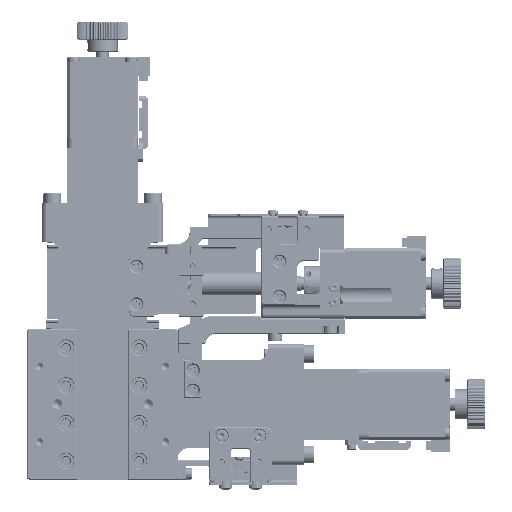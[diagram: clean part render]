
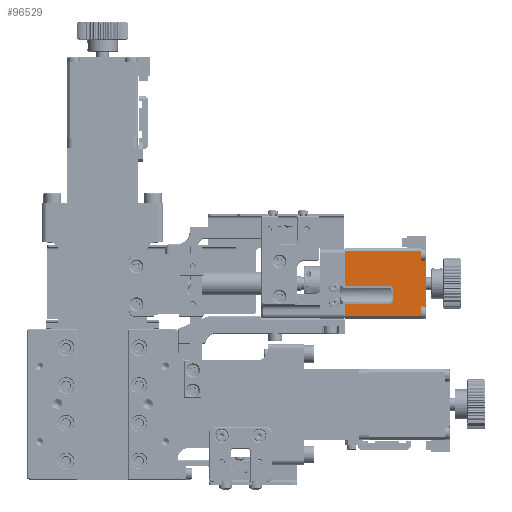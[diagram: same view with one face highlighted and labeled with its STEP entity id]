
A CAD part, front view. The second image highlights one B-rep face of the part: STEP entity #96529.
In plain terms, the highlighted planar face has unit normal (0, -1, 0).
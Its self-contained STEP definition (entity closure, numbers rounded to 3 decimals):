
#16959 = CARTESIAN_POINT ( 'NONE',  ( 96.5, 11., 61. ) ) ;
#17944 = VECTOR ( 'NONE', #149451, 1000. ) ;
#18818 = FACE_OUTER_BOUND ( 'NONE', #43171, .T. ) ;
#21094 = CARTESIAN_POINT ( 'NONE',  ( 126.5, 11., 35. ) ) ;
#23675 = EDGE_CURVE ( 'NONE', #269768, #54353, #55657, .T. ) ;
#24035 = ORIENTED_EDGE ( 'NONE', *, *, #265628, .F. ) ;
#24158 = DIRECTION ( 'NONE',  ( 0., 0., -1. ) ) ;
#24820 = LINE ( 'NONE', #112574, #157366 ) ;
#25373 = CARTESIAN_POINT ( 'NONE',  ( 126.5, 11., 57. ) ) ;
#26394 = ORIENTED_EDGE ( 'NONE', *, *, #99021, .T. ) ;
#27424 = ORIENTED_EDGE ( 'NONE', *, *, #185093, .F. ) ;
#39200 = LINE ( 'NONE', #85251, #236826 ) ;
#39313 = CARTESIAN_POINT ( 'NONE',  ( 126.5, 11., 61. ) ) ;
#43171 = EDGE_LOOP ( 'NONE', ( #72041, #118290, #24035, #26394, #61075, #177581, #101653, #212223, #61207, #27424, #140825, #167146 ) ) ;
#44906 = EDGE_CURVE ( 'NONE', #104739, #137043, #144664, .T. ) ;
#48374 = DIRECTION ( 'NONE',  ( 0., 0., -1. ) ) ;
#54353 = VERTEX_POINT ( 'NONE', #103067 ) ;
#54822 = VECTOR ( 'NONE', #252475, 1000. ) ;
#55657 = LINE ( 'NONE', #187730, #54822 ) ;
#60683 = DIRECTION ( 'NONE',  ( 0., 1., 0. ) ) ;
#61075 = ORIENTED_EDGE ( 'NONE', *, *, #44906, .F. ) ;
#61207 = ORIENTED_EDGE ( 'NONE', *, *, #157787, .T. ) ;
#62967 = CARTESIAN_POINT ( 'NONE',  ( 126.5, 11., 59.5 ) ) ;
#65760 = VERTEX_POINT ( 'NONE', #66517 ) ;
#66517 = CARTESIAN_POINT ( 'NONE',  ( 128.5, 11., 39.5 ) ) ;
#67565 = VERTEX_POINT ( 'NONE', #164628 ) ;
#67779 = EDGE_CURVE ( 'NONE', #221105, #65760, #132166, .T. ) ;
#67807 = CARTESIAN_POINT ( 'NONE',  ( 126.5, 11., 61. ) ) ;
#72041 = ORIENTED_EDGE ( 'NONE', *, *, #176747, .F. ) ;
#85251 = CARTESIAN_POINT ( 'NONE',  ( 96.5, 11., 39. ) ) ;
#96529 = ADVANCED_FACE ( 'NONE', ( #18818 ), #241556, .F. ) ;
#99021 = EDGE_CURVE ( 'NONE', #236541, #137043, #159042, .T. ) ;
#101653 = ORIENTED_EDGE ( 'NONE', *, *, #133389, .F. ) ;
#103067 = CARTESIAN_POINT ( 'NONE',  ( 96.5, 11., 35. ) ) ;
#104739 = VERTEX_POINT ( 'NONE', #62967 ) ;
#105008 = CARTESIAN_POINT ( 'NONE',  ( 126.5, 11., 36.5 ) ) ;
#106399 = CARTESIAN_POINT ( 'NONE',  ( 128.5, 11., 62. ) ) ;
#112574 = CARTESIAN_POINT ( 'NONE',  ( 126.5, 11., 59.5 ) ) ;
#114739 = LINE ( 'NONE', #180680, #140641 ) ;
#117817 = VERTEX_POINT ( 'NONE', #151355 ) ;
#118290 = ORIENTED_EDGE ( 'NONE', *, *, #67779, .F. ) ;
#119508 = CIRCLE ( 'NONE', #270788, 0.5 ) ;
#122234 = VERTEX_POINT ( 'NONE', #21094 ) ;
#126749 = DIRECTION ( 'NONE',  ( 0., 0., 1. ) ) ;
#126939 = DIRECTION ( 'NONE',  ( -1., 0., 0. ) ) ;
#131044 = EDGE_CURVE ( 'NONE', #67565, #241809, #195872, .T. ) ;
#132166 = LINE ( 'NONE', #106399, #17944 ) ;
#133389 = EDGE_CURVE ( 'NONE', #269768, #152150, #150675, .T. ) ;
#134801 = CIRCLE ( 'NONE', #240303, 0.5 ) ;
#137043 = VERTEX_POINT ( 'NONE', #139897 ) ;
#139897 = CARTESIAN_POINT ( 'NONE',  ( 126.5, 11., 57. ) ) ;
#140641 = VECTOR ( 'NONE', #24158, 1000. ) ;
#140825 = ORIENTED_EDGE ( 'NONE', *, *, #131044, .F. ) ;
#144664 = LINE ( 'NONE', #232195, #225791 ) ;
#149451 = DIRECTION ( 'NONE',  ( 0., 0., -1. ) ) ;
#150675 = LINE ( 'NONE', #16959, #275128 ) ;
#151355 = CARTESIAN_POINT ( 'NONE',  ( 128., 11., 39. ) ) ;
#151374 = DIRECTION ( 'NONE',  ( 0., 0., -1. ) ) ;
#152150 = VERTEX_POINT ( 'NONE', #67807 ) ;
#157366 = VECTOR ( 'NONE', #200093, 1000. ) ;
#157787 = EDGE_CURVE ( 'NONE', #54353, #122234, #195425, .T. ) ;
#159042 = LINE ( 'NONE', #25373, #178984 ) ;
#160565 = AXIS2_PLACEMENT_3D ( 'NONE', #196998, #60683, #126749 ) ;
#164628 = CARTESIAN_POINT ( 'NONE',  ( 126.5, 11., 39. ) ) ;
#165280 = DIRECTION ( 'NONE',  ( 0., 1., 0. ) ) ;
#167146 = ORIENTED_EDGE ( 'NONE', *, *, #231897, .F. ) ;
#172464 = DIRECTION ( 'NONE',  ( 1., 0., 0. ) ) ;
#173424 = VECTOR ( 'NONE', #151374, 1000. ) ;
#176747 = EDGE_CURVE ( 'NONE', #65760, #117817, #119508, .T. ) ;
#177581 = ORIENTED_EDGE ( 'NONE', *, *, #228491, .F. ) ;
#178984 = VECTOR ( 'NONE', #246693, 1000. ) ;
#180680 = CARTESIAN_POINT ( 'NONE',  ( 126.5, 11., 36.5 ) ) ;
#185093 = EDGE_CURVE ( 'NONE', #241809, #122234, #114739, .T. ) ;
#187730 = CARTESIAN_POINT ( 'NONE',  ( 96.5, 11., 62. ) ) ;
#189089 = DIRECTION ( 'NONE',  ( 0., 0., -1. ) ) ;
#195425 = LINE ( 'NONE', #244238, #275007 ) ;
#195872 = LINE ( 'NONE', #39313, #173424 ) ;
#196998 = CARTESIAN_POINT ( 'NONE',  ( 96.5, 11., 61. ) ) ;
#200093 = DIRECTION ( 'NONE',  ( 0., 0., -1. ) ) ;
#200631 = CARTESIAN_POINT ( 'NONE',  ( 128., 11., 39.5 ) ) ;
#212223 = ORIENTED_EDGE ( 'NONE', *, *, #23675, .T. ) ;
#220731 = DIRECTION ( 'NONE',  ( 0., 1., 0. ) ) ;
#221105 = VERTEX_POINT ( 'NONE', #230791 ) ;
#225791 = VECTOR ( 'NONE', #189089, 1000. ) ;
#228491 = EDGE_CURVE ( 'NONE', #152150, #104739, #24820, .T. ) ;
#230791 = CARTESIAN_POINT ( 'NONE',  ( 128.5, 11., 56.5 ) ) ;
#231897 = EDGE_CURVE ( 'NONE', #117817, #67565, #39200, .T. ) ;
#232195 = CARTESIAN_POINT ( 'NONE',  ( 126.5, 11., 61. ) ) ;
#236541 = VERTEX_POINT ( 'NONE', #240147 ) ;
#236737 = CARTESIAN_POINT ( 'NONE',  ( 96.5, 11., 61. ) ) ;
#236826 = VECTOR ( 'NONE', #126939, 1000. ) ;
#239662 = DIRECTION ( 'NONE',  ( 1., 0., 0. ) ) ;
#240147 = CARTESIAN_POINT ( 'NONE',  ( 128., 11., 57. ) ) ;
#240303 = AXIS2_PLACEMENT_3D ( 'NONE', #273053, #165280, #252901 ) ;
#241556 = PLANE ( 'NONE',  #160565 ) ;
#241809 = VERTEX_POINT ( 'NONE', #105008 ) ;
#244238 = CARTESIAN_POINT ( 'NONE',  ( 96.5, 11., 35. ) ) ;
#246693 = DIRECTION ( 'NONE',  ( -1., 0., 0. ) ) ;
#252475 = DIRECTION ( 'NONE',  ( 0., 0., -1. ) ) ;
#252901 = DIRECTION ( 'NONE',  ( 0., 0., 1. ) ) ;
#265628 = EDGE_CURVE ( 'NONE', #236541, #221105, #134801, .T. ) ;
#269768 = VERTEX_POINT ( 'NONE', #236737 ) ;
#270788 = AXIS2_PLACEMENT_3D ( 'NONE', #200631, #220731, #48374 ) ;
#273053 = CARTESIAN_POINT ( 'NONE',  ( 128., 11., 56.5 ) ) ;
#275007 = VECTOR ( 'NONE', #172464, 1000. ) ;
#275128 = VECTOR ( 'NONE', #239662, 1000. ) ;
